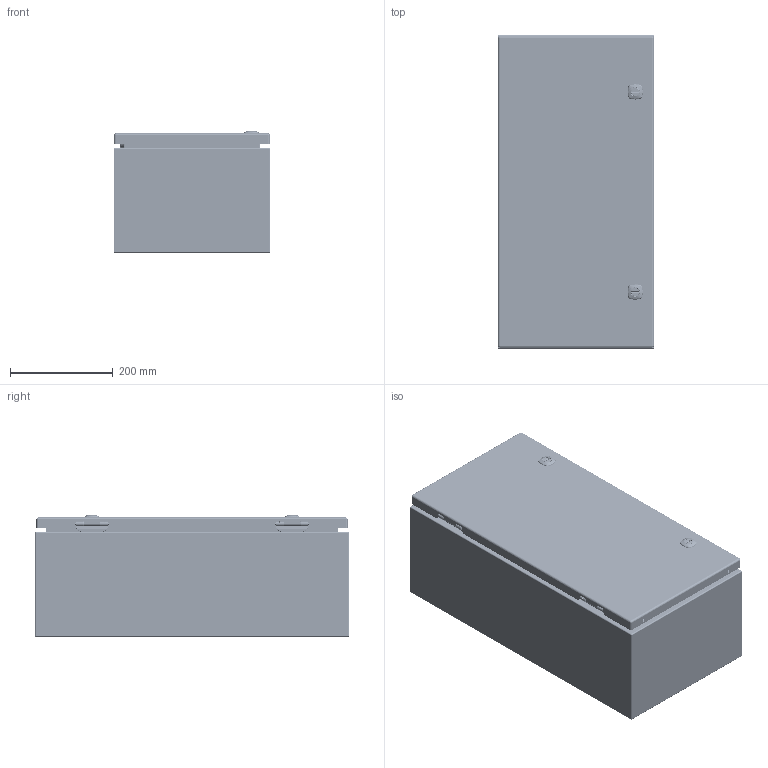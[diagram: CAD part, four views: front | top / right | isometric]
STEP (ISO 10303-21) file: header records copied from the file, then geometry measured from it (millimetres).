
FILE_DESCRIPTION(/* description */ ('5412ES 24" x 12" x 8" Assembly'),/* implementation_level */ '2;1');
FILE_NAME(/* name */ 'C:\Vault_Workspace\Inventor_Dwg\BoxCad\Result\5412ESB241208\e-mail\3D\5412ESB241208.stp',/* time_stamp */ '2022-03-14T16:29:53-04:00',/* author */ ('BoxCad'),/* organization */ (''),/* preprocessor_version */ 'ST-DEVELOPER v18.1',/* originating_system */ 'Autodesk Inventor 2020',/* authorisation */ '');
FILE_SCHEMA (('AUTOMOTIVE_DESIGN { 1 0 10303 214 3 1 1 }'));
Products named in the file (43): 5412ESB241208; 5412ESB241208B; 5412ESB241208B-P; STK-Q-16005; STUD_M6 x 16mm; STK-Q-07610; 881SP2412G; 881SP2412G-P; STK-Q-07310; 5412ESB241208C; 5412ESB241208C-P; 5412ESB241208G; STK-K-09800; STK-K-09800-2; STK-Q-33014; STK-Q-90398; STK-Q-40095; STK-Q-63410; STK-Q-16055; STK-Q-46020-24; STK-Q-07220-1; STK-Q-07220-2; STK-Q-07220-3; STK-Q-07220-4; STK-Q-07220-A; STK-Q-07220-B; STK-P-03820R; STK-S-00100; STK-A-880SCQ4-SL-1; STK-A-880SCQ4-SL-2; STK-Q-78110; STK-Q-78120; STK-Q-78145; STK-Q-03200; STK-Q-78125; STK-Q-78141; STK-Q-90390; STK-Q-78160; STK-Q-04050-07; STK-Q-04050-07-2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
Assembly tree (80 placements, depth 4):
  5412ESB241208
    5412ESB241208B
      5412ESB241208B-P
      STK-Q-16005  x4
      STK-P-03820R
      STUD_M6 x 16mm
    STK-Q-07610  x4
    881SP2412G
      881SP2412G-P
    STK-Q-07310  x4
    5412ESB241208C
      5412ESB241208C-P
      5412ESB241208G
      STK-K-09800
        STK-Q-33014
        STK-Q-90398
        STK-Q-40095  x2
        STK-Q-63410  x2
      STK-K-09800-2
        STK-Q-33014
        STK-Q-90398
        STK-Q-40095  x2
        STK-Q-63410  x2
      STK-Q-16055  x4
      STK-Q-46020-24  x2
      STK-Q-07220-1
        STK-Q-07220-A
        STK-Q-07220-B
      STK-Q-07220-2
        STK-Q-07220-A
        STK-Q-07220-B
      STK-Q-07220-3
        STK-Q-07220-A
        STK-Q-07220-B
      STK-Q-07220-4
        STK-Q-07220-A
        STK-Q-07220-B
      STK-P-03820R
      STK-S-00100
      STK-A-880SCQ4-SL-1
        STK-Q-78110
        STK-Q-78120
        STK-Q-78145
        STK-Q-03200
        STK-Q-78125
        STK-Q-78141
        STK-Q-90390
        STK-Q-78160
      STK-A-880SCQ4-SL-2
        STK-Q-78110
        STK-Q-78120
        STK-Q-78145
        STK-Q-03200
        STK-Q-78125
        STK-Q-78141
        STK-Q-90390
        STK-Q-78160
    STK-Q-04050-07
      STK-Q-04050-07-P
      STK-Q-04050-N
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Bounding box: 304.87 x 609.6 x 236.35 mm (x, y, z)
Volume: 1755959.7 mm3; surface area: 2228377 mm2
Topology: 64 solids, 64 shells, 9656 faces, 25916 edges, 16457 vertices
Faces by surface type: bspline 3404, plane 2761, cylinder 2500, torus 631, sphere 184, cone 176
Full cylindrical faces by diameter (mm): 0 x1, 0.75 x9, 0.762 x9, 1 x8, 1.1 x8, 3.2 x4, 4.191 x40, 4.5 x4, 4.521 x8, 4.75 x2, 4.85 x16, 4.95 x4, 5 x4, 5.1 x36, 5.156 x4, 5.6 x2, 5.9 x29, 6.015 x40, 6.65 x4, 6.8 x4, 6.85 x16, 7.3 x2, 7.366 x4, 7.9 x8, 8 x12, 8.382 x2, 9.5 x4, 9.6 x2, 9.906 x4, 10 x2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
Entity records: 154855 total; most frequent: CARTESIAN_POINT 63870, ORIENTED_EDGE 20830, DIRECTION 15137, EDGE_CURVE 10415, VERTEX_POINT 6595, AXIS2_PLACEMENT_3D 5550, EDGE_LOOP 4242, LINE 4037
